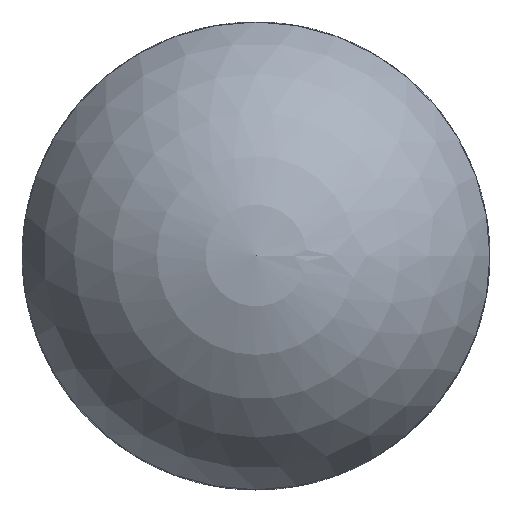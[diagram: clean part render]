
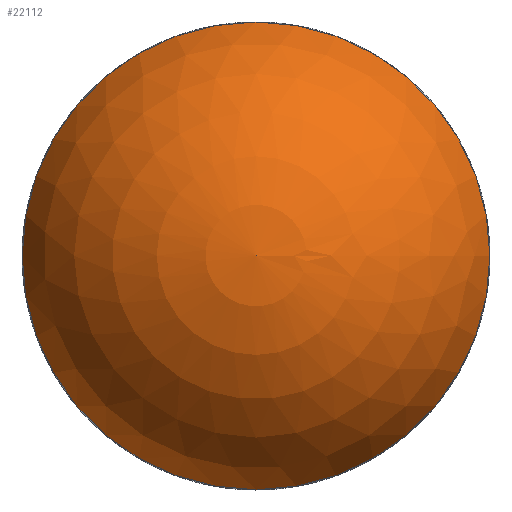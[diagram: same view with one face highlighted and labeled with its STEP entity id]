
A CAD part, top view. The second image highlights one B-rep face of the part: STEP entity #22112.
In plain terms, the highlighted spherical face has radius 8 mm.
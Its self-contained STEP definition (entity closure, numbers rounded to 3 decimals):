
#499 = CYLINDRICAL_SURFACE('',#500,7.566);
#500 = AXIS2_PLACEMENT_3D('',#501,#502,#503);
#501 = CARTESIAN_POINT('',(0.,0.,-1.));
#502 = DIRECTION('',(0.,0.,1.));
#503 = DIRECTION('',(1.,0.,-0.));
#551 = VERTEX_POINT('',#552);
#552 = CARTESIAN_POINT('',(7.566,0.,
    9.214));
#573 = EDGE_CURVE('',#551,#551,#574,.T.);
#574 = SURFACE_CURVE('',#575,(#580,#587),.PCURVE_S1.);
#575 = CIRCLE('',#576,7.566);
#576 = AXIS2_PLACEMENT_3D('',#577,#578,#579);
#577 = CARTESIAN_POINT('',(0.,0.,9.214));
#578 = DIRECTION('',(0.,0.,1.));
#579 = DIRECTION('',(0.,-1.,0.));
#580 = PCURVE('',#499,#581);
#581 = DEFINITIONAL_REPRESENTATION('',(#582),#586);
#582 = LINE('',#583,#584);
#583 = CARTESIAN_POINT('',(-1.571,10.214));
#584 = VECTOR('',#585,1.);
#585 = DIRECTION('',(1.,0.));
#586 = ( GEOMETRIC_REPRESENTATION_CONTEXT(2) 
PARAMETRIC_REPRESENTATION_CONTEXT() REPRESENTATION_CONTEXT('2D SPACE',''
  ) );
#587 = PCURVE('',#588,#593);
#588 = SPHERICAL_SURFACE('',#589,8.);
#589 = AXIS2_PLACEMENT_3D('',#590,#591,#592);
#590 = CARTESIAN_POINT('',(0.,0.,6.614));
#591 = DIRECTION('',(0.,0.,1.));
#592 = DIRECTION('',(1.,0.,-0.));
#593 = DEFINITIONAL_REPRESENTATION('',(#594),#598);
#594 = LINE('',#595,#596);
#595 = CARTESIAN_POINT('',(-1.571,0.331));
#596 = VECTOR('',#597,1.);
#597 = DIRECTION('',(1.,0.));
#598 = ( GEOMETRIC_REPRESENTATION_CONTEXT(2) 
PARAMETRIC_REPRESENTATION_CONTEXT() REPRESENTATION_CONTEXT('2D SPACE',''
  ) );
#22112 = ADVANCED_FACE('',(#22113),#588,.T.);
#22113 = FACE_BOUND('',#22114,.T.);
#22114 = EDGE_LOOP('',(#22115,#22116,#22140));
#22115 = ORIENTED_EDGE('',*,*,#573,.T.);
#22116 = ORIENTED_EDGE('',*,*,#22117,.T.);
#22117 = EDGE_CURVE('',#551,#22118,#22120,.T.);
#22118 = VERTEX_POINT('',#22119);
#22119 = CARTESIAN_POINT('',(0.,0.,
    14.614));
#22120 = SEAM_CURVE('',#22121,(#22126,#22133),.PCURVE_S1.);
#22121 = CIRCLE('',#22122,8.);
#22122 = AXIS2_PLACEMENT_3D('',#22123,#22124,#22125);
#22123 = CARTESIAN_POINT('',(0.,0.,6.614));
#22124 = DIRECTION('',(0.,-1.,0.));
#22125 = DIRECTION('',(1.,0.,0.));
#22126 = PCURVE('',#588,#22127);
#22127 = DEFINITIONAL_REPRESENTATION('',(#22128),#22132);
#22128 = LINE('',#22129,#22130);
#22129 = CARTESIAN_POINT('',(0.,-6.283));
#22130 = VECTOR('',#22131,1.);
#22131 = DIRECTION('',(0.,1.));
#22132 = ( GEOMETRIC_REPRESENTATION_CONTEXT(2) 
PARAMETRIC_REPRESENTATION_CONTEXT() REPRESENTATION_CONTEXT('2D SPACE',''
  ) );
#22133 = PCURVE('',#588,#22134);
#22134 = DEFINITIONAL_REPRESENTATION('',(#22135),#22139);
#22135 = LINE('',#22136,#22137);
#22136 = CARTESIAN_POINT('',(6.283,-6.283));
#22137 = VECTOR('',#22138,1.);
#22138 = DIRECTION('',(0.,1.));
#22139 = ( GEOMETRIC_REPRESENTATION_CONTEXT(2) 
PARAMETRIC_REPRESENTATION_CONTEXT() REPRESENTATION_CONTEXT('2D SPACE',''
  ) );
#22140 = ORIENTED_EDGE('',*,*,#22117,.F.);
